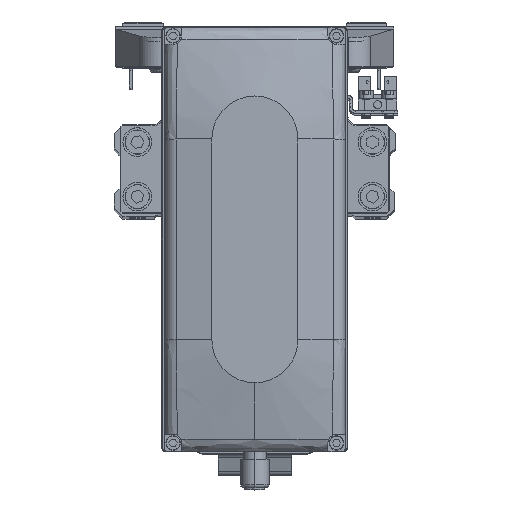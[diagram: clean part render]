
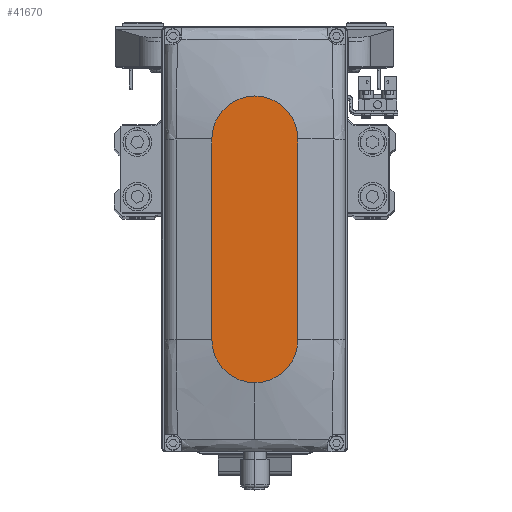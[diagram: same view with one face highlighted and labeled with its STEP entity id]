
A CAD part, top view. The second image highlights one B-rep face of the part: STEP entity #41670.
In plain terms, the highlighted planar face has unit normal (0, 0, 1).
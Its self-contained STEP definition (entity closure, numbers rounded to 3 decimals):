
#3755 = LINE ( 'NONE', #17617, #30256 ) ;
#4145 = EDGE_CURVE ( 'NONE', #21032, #16339, #9397, .T. ) ;
#4546 = CIRCLE ( 'NONE', #29927, 15. ) ;
#4906 = CARTESIAN_POINT ( 'NONE',  ( -35., 15., 35. ) ) ;
#7089 = DIRECTION ( 'NONE',  ( 0., 0., 1. ) ) ;
#8317 = VERTEX_POINT ( 'NONE', #42088 ) ;
#8818 = DIRECTION ( 'NONE',  ( 0., 0., 1. ) ) ;
#9397 = CIRCLE ( 'NONE', #34785, 15. ) ;
#10508 = FACE_OUTER_BOUND ( 'NONE', #41778, .T. ) ;
#10659 = CARTESIAN_POINT ( 'NONE',  ( 35., 15., 35. ) ) ;
#10932 = DIRECTION ( 'NONE',  ( 0., 0., 1. ) ) ;
#12924 = CARTESIAN_POINT ( 'NONE',  ( 35., 0., 35. ) ) ;
#13489 = AXIS2_PLACEMENT_3D ( 'NONE', #42051, #10932, #24771 ) ;
#16339 = VERTEX_POINT ( 'NONE', #10659 ) ;
#17384 = ORIENTED_EDGE ( 'NONE', *, *, #18141, .T. ) ;
#17617 = CARTESIAN_POINT ( 'NONE',  ( -35., -15., 35. ) ) ;
#18141 = EDGE_CURVE ( 'NONE', #16339, #40882, #36024, .T. ) ;
#18745 = ORIENTED_EDGE ( 'NONE', *, *, #37152, .T. ) ;
#18754 = DIRECTION ( 'NONE',  ( -1., 0., 0. ) ) ;
#19553 = CIRCLE ( 'NONE', #13489, 15. ) ;
#20731 = VERTEX_POINT ( 'NONE', #35879 ) ;
#20940 = DIRECTION ( 'NONE',  ( 1., 0., 0. ) ) ;
#21032 = VERTEX_POINT ( 'NONE', #27873 ) ;
#22585 = ORIENTED_EDGE ( 'NONE', *, *, #4145, .T. ) ;
#22670 = DIRECTION ( 'NONE',  ( 1., 0., 0. ) ) ;
#24043 = ORIENTED_EDGE ( 'NONE', *, *, #28958, .T. ) ;
#24344 = PLANE ( 'NONE',  #35777 ) ;
#24771 = DIRECTION ( 'NONE',  ( 1., 0., 0. ) ) ;
#26768 = DIRECTION ( 'NONE',  ( 0., 0., 1. ) ) ;
#27873 = CARTESIAN_POINT ( 'NONE',  ( 50., 0., 35. ) ) ;
#28958 = EDGE_CURVE ( 'NONE', #8317, #20731, #3755, .T. ) ;
#29374 = CARTESIAN_POINT ( 'NONE',  ( -35., 15., 35. ) ) ;
#29927 = AXIS2_PLACEMENT_3D ( 'NONE', #12924, #26768, #40654 ) ;
#30256 = VECTOR ( 'NONE', #31461, 1000. ) ;
#31461 = DIRECTION ( 'NONE',  ( 1., 0., 0. ) ) ;
#33544 = VECTOR ( 'NONE', #18754, 1000. ) ;
#34785 = AXIS2_PLACEMENT_3D ( 'NONE', #39945, #8818, #22670 ) ;
#35777 = AXIS2_PLACEMENT_3D ( 'NONE', #38217, #7089, #20940 ) ;
#35879 = CARTESIAN_POINT ( 'NONE',  ( 35., -15., 35. ) ) ;
#36024 = LINE ( 'NONE', #4906, #33544 ) ;
#37152 = EDGE_CURVE ( 'NONE', #20731, #21032, #4546, .T. ) ;
#37550 = ORIENTED_EDGE ( 'NONE', *, *, #38160, .T. ) ;
#38160 = EDGE_CURVE ( 'NONE', #40882, #8317, #19553, .T. ) ;
#38217 = CARTESIAN_POINT ( 'NONE',  ( 0., 0., 35. ) ) ;
#39945 = CARTESIAN_POINT ( 'NONE',  ( 35., 0., 35. ) ) ;
#40654 = DIRECTION ( 'NONE',  ( 1., 0., 0. ) ) ;
#40882 = VERTEX_POINT ( 'NONE', #29374 ) ;
#41670 = ADVANCED_FACE ( 'NONE', ( #10508 ), #24344, .T. ) ;
#41778 = EDGE_LOOP ( 'NONE', ( #17384, #37550, #24043, #18745, #22585 ) ) ;
#42051 = CARTESIAN_POINT ( 'NONE',  ( -35., 0., 35. ) ) ;
#42088 = CARTESIAN_POINT ( 'NONE',  ( -35., -15., 35. ) ) ;
